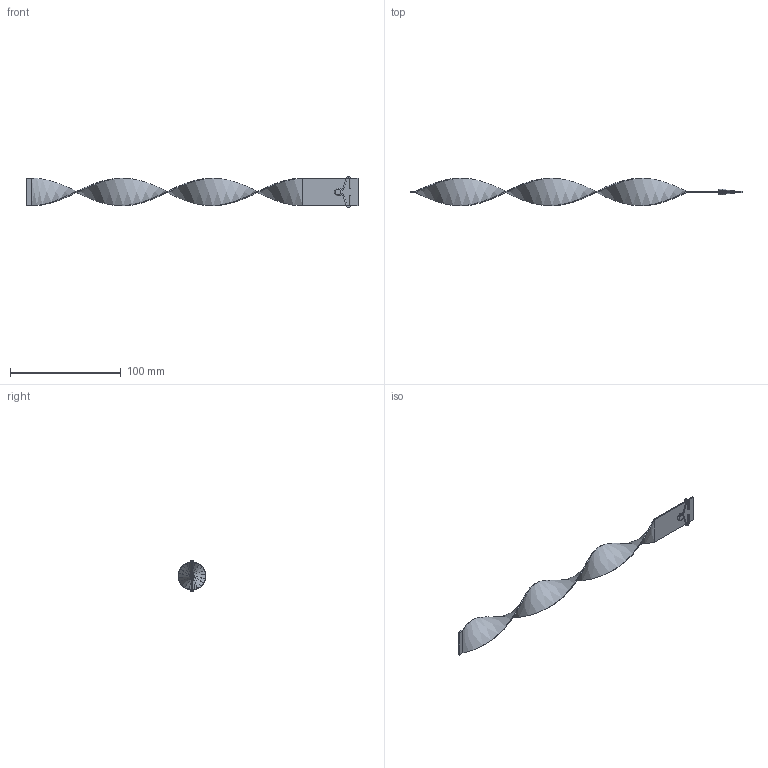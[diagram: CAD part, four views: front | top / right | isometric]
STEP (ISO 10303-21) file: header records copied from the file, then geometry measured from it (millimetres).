
FILE_DESCRIPTION (( 'STEP AP203' ), '1' );
FILE_NAME ('RLAS-25x300.STEP', '2016-02-12T07:22:00', ( 'Balzi' ), ( '' ), 'SwSTEP 2.0', 'SolidWorks 2015', '' );
FILE_SCHEMA (( 'CONFIG_CONTROL_DESIGN' ));
Length unit declared in the file: millimetre
Products named in the file (1): RLAS-25x300
Bounding box: 300 x 24.82 x 27.99 mm (x, y, z)
Volume: 7598.7 mm3; surface area: 16551.6 mm2
Topology: 5 solids, 5 shells, 92 faces, 178 edges, 96 vertices
Faces by surface type: torus 40, cylinder 30, plane 18, bspline 4
Entity records: 3811 total; most frequent: CARTESIAN_POINT 1823, DIRECTION 468, ORIENTED_EDGE 356, AXIS2_PLACEMENT_3D 209, EDGE_CURVE 178, CIRCLE 120, VERTEX_POINT 96, EDGE_LOOP 94
